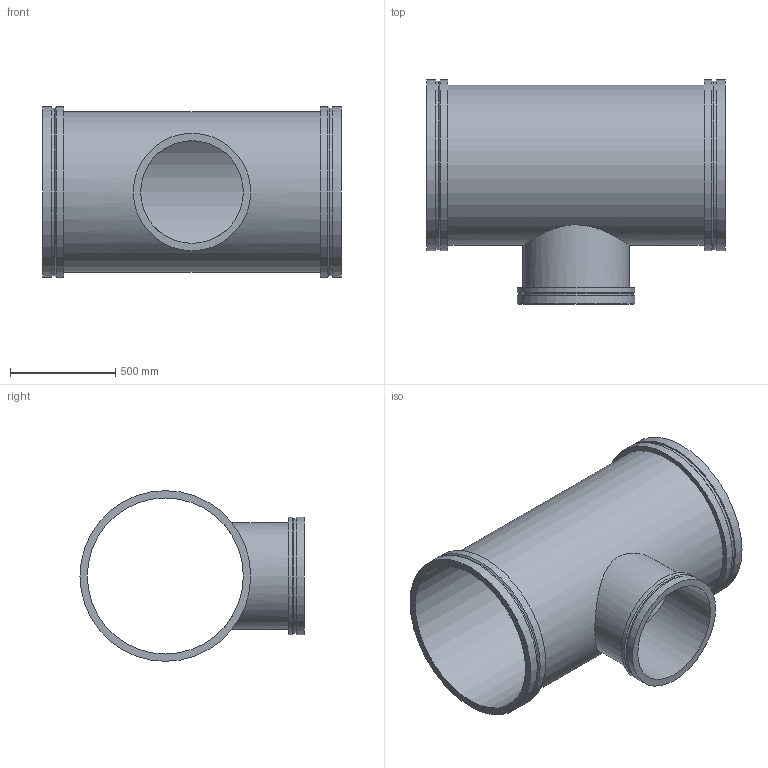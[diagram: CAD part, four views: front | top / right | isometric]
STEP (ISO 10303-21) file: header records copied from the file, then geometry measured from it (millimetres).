
FILE_DESCRIPTION(/* description */ ('VIC REDUCING TEE No W025 VR','CAx-IF Rec.Pracs.---Representation and Presentation of Product Manufacturing Information (PMI)---4.0---2014-10-13'),/* implementation_level */ '2;1');
FILE_NAME(/* name */ 'C:\Users\kkamble\AppData\Roaming\Autodesk\ApplicationPlugins\Back Up\Victaulic_Vic-Ring_Tee Reducing_No W25 VR (AGR)\Victaulic_Vic-Ring_Tee Reducing_No W25 VR (AGR)_30.0x20.0 (750x500).stp',/* time_stamp */ '2020-09-10T11:54:18+05:00',/* author */ ('mchristi'),/* organization */ ('Victaulic'),/* preprocessor_version */ 'ST-DEVELOPER v17.2',/* originating_system */ 'Autodesk Inventor 2019',/* authorisation */ '');
FILE_SCHEMA (('AP242_MANAGED_MODEL_BASED_3D_ENGINEERING_MIM_LF { 1 0 10303 442 1 1 4 }'));
Length unit declared in the file: inch
Products named in the file (1): W25 VR-30.0x20.0
Bounding box: 1422.4 x 1066.8 x 812.8 mm (x, y, z)
Volume: 50224203.5 mm3; surface area: 7849668.5 mm2
Topology: 1 solids, 1 shells, 25 faces, 68 edges, 52 vertices
Faces by surface type: cylinder 13, plane 9, cone 3
Full cylindrical faces by diameter (mm): 488.95 x1, 508 x1, 546.1 x1, 558.8 x2, 742.95 x1, 762 x1, 798.322 x2, 812.8 x4
Entity records: 1243 total; most frequent: CARTESIAN_POINT 399, DIRECTION 190, ORIENTED_EDGE 136, AXIS2_PLACEMENT_3D 87, EDGE_CURVE 68, VERTEX_POINT 52, CIRCLE 48, EDGE_LOOP 36
